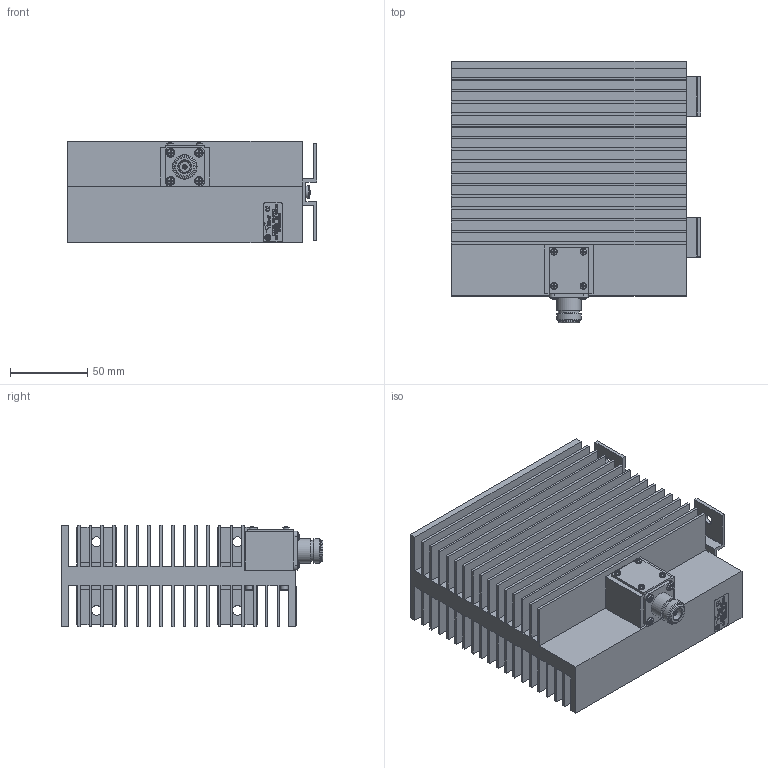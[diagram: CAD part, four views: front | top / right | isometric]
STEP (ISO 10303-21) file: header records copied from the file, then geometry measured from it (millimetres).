
FILE_DESCRIPTION(/* description */ ('Unknown'),/* implementation_level */ '2;1');
FILE_NAME(/* name */ '100-T-FN Rev D STEP',/* time_stamp */ '2021-08-13T14:28:23-04:00',/* author */ ('Unknown'),/* organization */ ('Unknown'),/* preprocessor_version */ 'ST-DEVELOPER v16.7',/* originating_system */ 'Solid Edge',/* authorisation */ 'Unknown');
FILE_SCHEMA (('AUTOMOTIVE_DESIGN {1 0 10303 214 3 1 1}'));
Length unit declared in the file: millimetre
Products named in the file (1): 100-T-FN
Bounding box: 161.81 x 169.9 x 66.04 mm (x, y, z)
Volume: 598510.9 mm3; surface area: 363140.9 mm2
Topology: 1 solids, 1 shells, 1242 faces, 3353 edges, 2215 vertices
Faces by surface type: plane 976, cylinder 135, bspline 87, cone 18, torus 14, sphere 12
Full cylindrical faces by diameter (mm): 4.242 x4, 4.648 x4, 6.35 x4, 6.993 x1, 8.128 x1, 8.179 x4, 13.462 x2, 15.875 x2
Entity records: 49538 total; most frequent: CARTESIAN_POINT 11086, ORIENTED_EDGE 6492, DIRECTION 5420, EDGE_CURVE 3246, VERTEX_POINT 2190, LINE 2180, VECTOR 2180, AXIS2_PLACEMENT_3D 1620
